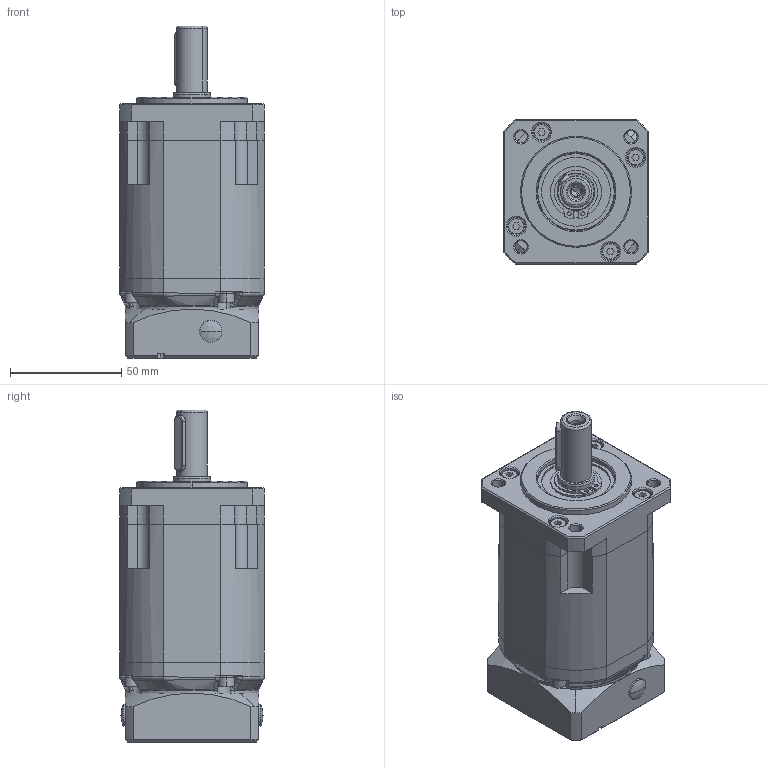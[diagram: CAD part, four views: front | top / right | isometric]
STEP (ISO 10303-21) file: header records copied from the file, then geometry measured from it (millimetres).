
FILE_DESCRIPTION (( 'STEP AP203' ), '1' );
FILE_NAME ('PS70L3-100-P2-S2-8-24-38.1-口47.14-M4.step', '2020-03-30T09:39:11', ( '个人用户' ), ( '微软中国' ), 'SwSTEP 2.0', 'SolidWorks 2018', '' );
FILE_SCHEMA (( 'CONFIG_CONTROL_DESIGN' ));
Products named in the file (1): PS70L3-100-P2-S2-8-24-38.1-諳47.14-M4
Bounding box: 65 x 65 x 149.5 mm (x, y, z)
Volume: 285454.5 mm3; surface area: 108432.3 mm2
Topology: 41 solids, 41 shells, 1476 faces, 3638 edges, 2295 vertices
Faces by surface type: cylinder 495, plane 415, sphere 190, cone 172, torus 166, bspline 38
Entity records: 50268 total; most frequent: CARTESIAN_POINT 14972, DIRECTION 7713, ORIENTED_EDGE 7176, EDGE_CURVE 3588, AXIS2_PLACEMENT_3D 3245, VERTEX_POINT 2291, CIRCLE 1806, EDGE_LOOP 1697
